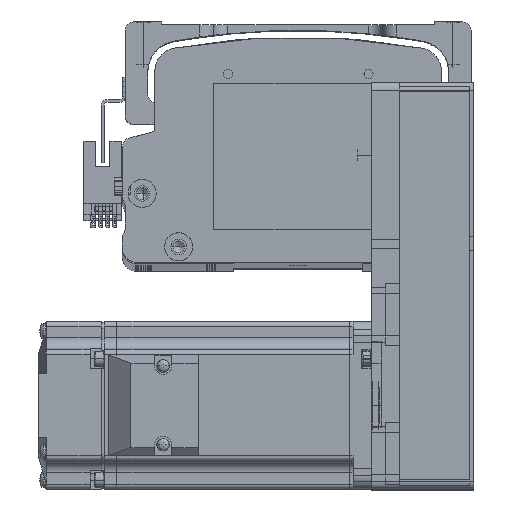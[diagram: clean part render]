
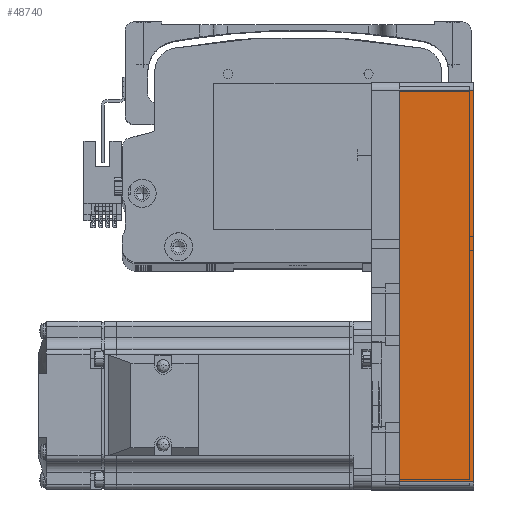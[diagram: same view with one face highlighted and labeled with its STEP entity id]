
A CAD part, top view. The second image highlights one B-rep face of the part: STEP entity #48740.
In plain terms, the highlighted planar face has unit normal (0, 0, 1) as drawn and (0, -1, 0) by its records, which use the part's own axes.
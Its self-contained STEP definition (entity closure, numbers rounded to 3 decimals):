
#570 = DIRECTION ( 'NONE',  ( 0., 1., 0. ) ) ;
#840 = LINE ( 'NONE', #78624, #16588 ) ;
#2471 = CARTESIAN_POINT ( 'NONE',  ( -69.5, -30., 26.5 ) ) ;
#4354 = AXIS2_PLACEMENT_3D ( 'NONE', #40963, #570, #47732 ) ;
#12046 = CARTESIAN_POINT ( 'NONE',  ( 72.5, -30., 26.5 ) ) ;
#12699 = CARTESIAN_POINT ( 'NONE',  ( -69.5, -30., 0. ) ) ;
#13752 = PLANE ( 'NONE',  #4354 ) ;
#16398 = VERTEX_POINT ( 'NONE', #48822 ) ;
#16588 = VECTOR ( 'NONE', #85439, 1000. ) ;
#20815 = ORIENTED_EDGE ( 'NONE', *, *, #85781, .T. ) ;
#21786 = CARTESIAN_POINT ( 'NONE',  ( 69.5, -30., 26.5 ) ) ;
#24735 = EDGE_CURVE ( 'NONE', #65323, #40881, #41254, .T. ) ;
#24952 = ORIENTED_EDGE ( 'NONE', *, *, #74512, .F. ) ;
#26432 = DIRECTION ( 'NONE',  ( 0., 0., 1. ) ) ;
#26574 = VERTEX_POINT ( 'NONE', #12699 ) ;
#31507 = FACE_OUTER_BOUND ( 'NONE', #73509, .T. ) ;
#40881 = VERTEX_POINT ( 'NONE', #21786 ) ;
#40963 = CARTESIAN_POINT ( 'NONE',  ( 72.5, -30., 26.5 ) ) ;
#41254 = LINE ( 'NONE', #53295, #75138 ) ;
#47732 = DIRECTION ( 'NONE',  ( -1., 0., 0. ) ) ;
#48740 = ADVANCED_FACE ( 'NONE', ( #31507 ), #13752, .F. ) ;
#48822 = CARTESIAN_POINT ( 'NONE',  ( -69.5, -30., 26.5 ) ) ;
#53295 = CARTESIAN_POINT ( 'NONE',  ( 69.5, -30., 26.5 ) ) ;
#59384 = DIRECTION ( 'NONE',  ( 1., 0., 0. ) ) ;
#62125 = VECTOR ( 'NONE', #59384, 1000. ) ;
#63362 = CARTESIAN_POINT ( 'NONE',  ( 69.5, -30., 0. ) ) ;
#65323 = VERTEX_POINT ( 'NONE', #63362 ) ;
#69515 = LINE ( 'NONE', #2471, #85371 ) ;
#70126 = EDGE_CURVE ( 'NONE', #16398, #26574, #69515, .T. ) ;
#73509 = EDGE_LOOP ( 'NONE', ( #20815, #82175, #24952, #78418 ) ) ;
#74512 = EDGE_CURVE ( 'NONE', #16398, #40881, #78046, .T. ) ;
#75138 = VECTOR ( 'NONE', #26432, 1000. ) ;
#78046 = LINE ( 'NONE', #12046, #62125 ) ;
#78418 = ORIENTED_EDGE ( 'NONE', *, *, #70126, .T. ) ;
#78624 = CARTESIAN_POINT ( 'NONE',  ( 72.5, -30., 0. ) ) ;
#82175 = ORIENTED_EDGE ( 'NONE', *, *, #24735, .T. ) ;
#83403 = DIRECTION ( 'NONE',  ( 0., 0., -1. ) ) ;
#85371 = VECTOR ( 'NONE', #83403, 1000. ) ;
#85439 = DIRECTION ( 'NONE',  ( 1., 0., 0. ) ) ;
#85781 = EDGE_CURVE ( 'NONE', #26574, #65323, #840, .T. ) ;
